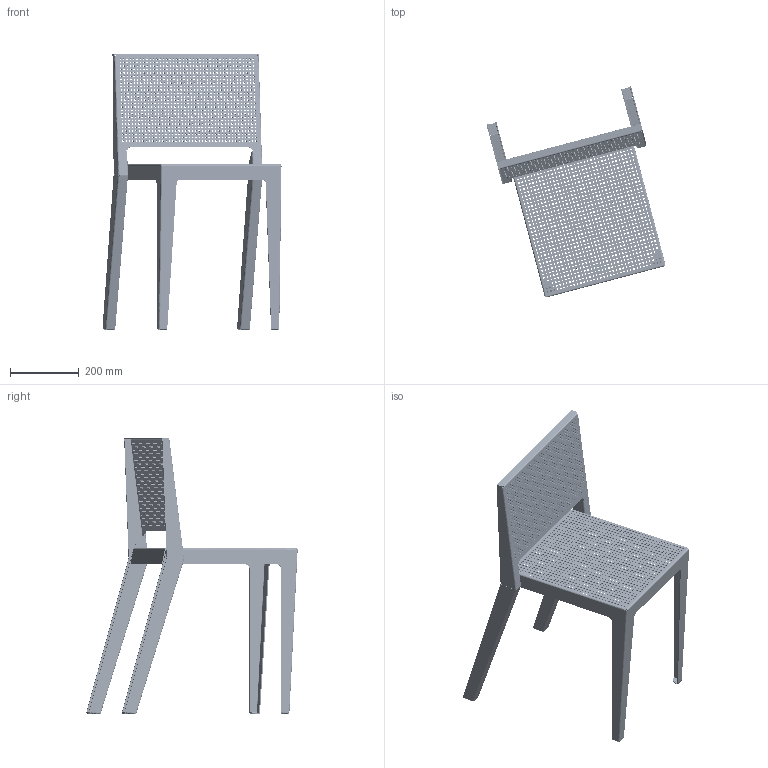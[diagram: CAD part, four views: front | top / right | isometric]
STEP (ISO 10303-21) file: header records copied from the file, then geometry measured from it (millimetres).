
FILE_DESCRIPTION(/* description */ (''),/* implementation_level */ '2;1');
FILE_NAME(/* name */ 'ABCHAIR',/* time_stamp */ '2017-04-10T17:06:51+02:00',/* author */ (''),/* organization */ (''),/* preprocessor_version */ 'ST-DEVELOPER v10',/* originating_system */ '',/* authorisation */ '');
FILE_SCHEMA (('CONFIG_CONTROL_DESIGN'));
Products named in the file (2): 1; 2
Assembly tree (1 placements, depth 2):
  1
    2
Bounding box: 521 x 615.1 x 803.37 mm (x, y, z)
Surface area: 1107665 mm2 (no closed solid volume)
Topology: 0 solids, 6 shells, 4863 faces, 16513 edges, 11598 vertices
Faces by surface type: bspline 4690, plane 173
Entity records: 208361 total; most frequent: CARTESIAN_POINT 117634, ORIENTED_EDGE 32938, EDGE_CURVE 16513, VERTEX_POINT 11598, EDGE_LOOP 9433, B_SPLINE_CURVE_WITH_KNOTS 5191, ADVANCED_FACE 4863, FACE_OUTER_BOUND 4863
